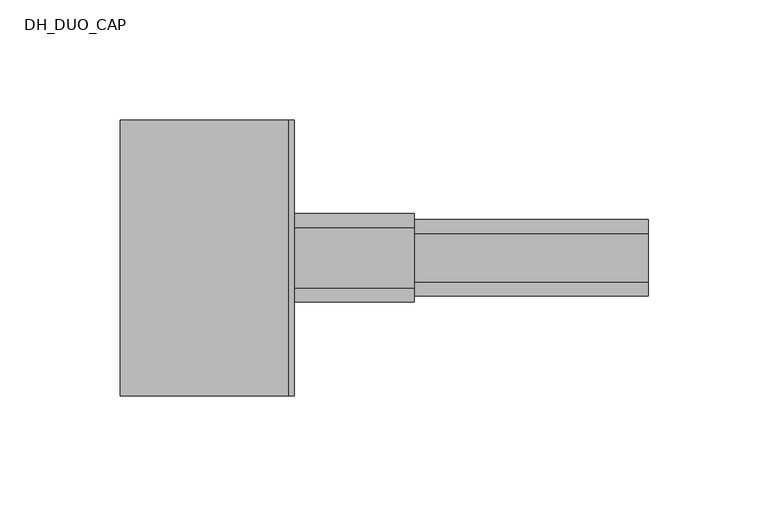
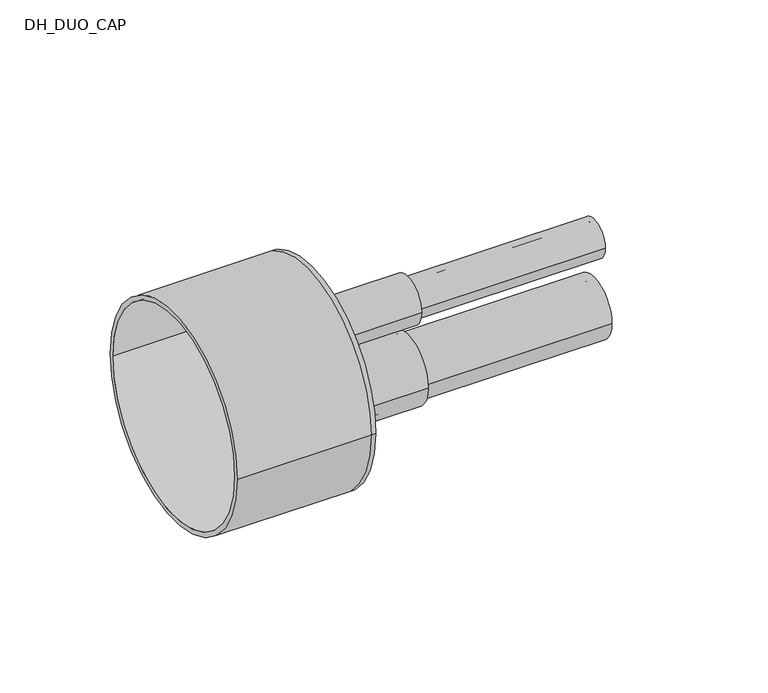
"""IFC4 building model written with IfcOpenShell, lengths in millimetres: pipe fitting geometry, DH_DUO_CAP : INSULPEX DUO 7.4 DW - Rubber Cap."""

from ifc_helpers import new_model, si_unit, point, frame, frame_2d, origin, place, context, project, spatial, polyline, circle_curve, trimmed, segment, composite_curve, outline, extrude, source, transform, mapped, element, save
from ifc_brep_helpers import plane_surface, cylinder_surface, revolved_surface, advanced_brep


def dh_duo_cap_0ae49115(model_context):
    return source(origin(), model_context, "Body", "SolidModel", [
        extrude(outline(composite_curve([segment(trimmed(circle_curve(frame_2d((0.0, -16.0)), 16.0), [point((-16.0, -16.0))], [point((16.0, -16.0))], False, "CARTESIAN"), True, "CONTINUOUS"), segment(trimmed(circle_curve(frame_2d((0.0, -16.0)), 16.0), [point((16.0, -16.0))], [point((-16.0, -16.0))], False, "CARTESIAN"), True, "CONTINUOUS")], self_intersect=False), holes=[composite_curve([segment(trimmed(circle_curve(frame_2d((0.0, -16.0)), 11.6), [point((-11.6, -16.0))], [point((11.6, -16.0))], True, "CARTESIAN"), True, "CONTINUOUS"), segment(trimmed(circle_curve(frame_2d((0.0, -16.0)), 11.6), [point((11.6, -16.0))], [point((-11.6, -16.0))], True, "CARTESIAN"), True, "CONTINUOUS")], self_intersect=False)]), frame((0.0, 0.0, 0.0), z_axis=(1.0, 0.0, 0.0), x_axis=(0.0, 1.0, 0.0)), (0.0, 0.0, 1.0), 150.0),
        extrude(outline(composite_curve([segment(trimmed(circle_curve(frame_2d((0.0, 22.0)), 10.0), [point((-10.0, 22.0))], [point((10.0, 22.0))], False, "CARTESIAN"), True, "CONTINUOUS"), segment(trimmed(circle_curve(frame_2d((0.0, 22.0)), 10.0), [point((10.0, 22.0))], [point((-10.0, 22.0))], False, "CARTESIAN"), True, "CONTINUOUS")], self_intersect=False), holes=[composite_curve([segment(trimmed(circle_curve(frame_2d((0.0, 22.0)), 7.2), [point((-7.2, 22.0))], [point((7.2, 22.0))], True, "CARTESIAN"), True, "CONTINUOUS"), segment(trimmed(circle_curve(frame_2d((0.0, 22.0)), 7.2), [point((7.2, 22.0))], [point((-7.2, 22.0))], True, "CARTESIAN"), True, "CONTINUOUS")], self_intersect=False)]), frame((0.0, 0.0, 0.0), z_axis=(1.0, 0.0, 0.0), x_axis=(0.0, 1.0, 0.0)), (0.0, 0.0, 1.0), 150.0),
        advanced_brep(
        [(-70.0, -57.5, 0.0), (-70.0, 57.5, 0.0), (-70.0, -55.0, 0.0), (-70.0, 55.0, 0.0), (0.0, -55.0, 0.0), (0.0, 55.0, 0.0), (0.0, -57.5, 0.0), (0.0, 57.5, 0.0), (0.0, 10.0, 22.0), (0.0, -10.0, 22.0), (0.0, 16.0, -16.0), (0.0, -16.0, -16.0), (2.5, -57.5, 0.0), (2.5, 57.5, 0.0), (2.5, -10.0, 22.0), (2.5, 10.0, 22.0), (2.5, -16.0, -16.0), (2.5, 16.0, -16.0)],
        [
            (0, 1, circle_curve(frame((-70.0, 0.0, 0.0), z_axis=(-1.0, 0.0, 0.0), x_axis=(0.0, 1.0, 0.0)), 57.5)),
            (1, 0, circle_curve(frame((-70.0, 0.0, 0.0), z_axis=(-1.0, 0.0, 0.0), x_axis=(0.0, 1.0, 0.0)), 57.5)),
            (2, 3, circle_curve(frame((-70.0, 0.0, 0.0), z_axis=(1.0, 0.0, 0.0), x_axis=(0.0, 1.0, 0.0)), 55.0)),
            (3, 2, circle_curve(frame((-70.0, 0.0, 0.0), z_axis=(1.0, 0.0, 0.0), x_axis=(0.0, 1.0, 0.0)), 55.0)),
            (2, 4),
            (4, 5, circle_curve(frame((0.0, 0.0, 0.0), z_axis=(1.0, 0.0, 0.0), x_axis=(0.0, 1.0, 0.0)), 55.0)),
            (5, 3),
            (5, 4, circle_curve(frame((0.0, 0.0, 0.0), z_axis=(1.0, 0.0, 0.0), x_axis=(0.0, 1.0, 0.0)), 55.0)),
            (0, 6),
            (6, 7, circle_curve(frame((0.0, 0.0, 0.0), z_axis=(-1.0, 0.0, 0.0), x_axis=(0.0, 1.0, 0.0)), 57.5)),
            (7, 1),
            (7, 6, circle_curve(frame((0.0, 0.0, 0.0), z_axis=(-1.0, 0.0, 0.0), x_axis=(0.0, 1.0, 0.0)), 57.5)),
            (8, 9, circle_curve(frame((0.0, 0.0, 22.0), z_axis=(1.0, 0.0, 0.0), x_axis=(0.0, 1.0, 0.0)), 10.0)),
            (9, 8, circle_curve(frame((0.0, 0.0, 22.0), z_axis=(1.0, 0.0, 0.0), x_axis=(0.0, 1.0, 0.0)), 10.0)),
            (10, 11, circle_curve(frame((0.0, 0.0, -16.0), z_axis=(1.0, 0.0, 0.0), x_axis=(0.0, 1.0, 0.0)), 16.0)),
            (11, 10, circle_curve(frame((0.0, 0.0, -16.0), z_axis=(1.0, 0.0, 0.0), x_axis=(0.0, 1.0, 0.0)), 16.0)),
            (12, 13, circle_curve(frame((2.5, 0.0, 0.0), z_axis=(1.0, 0.0, 0.0), x_axis=(0.0, 1.0, 0.0)), 57.5)),
            (13, 12, circle_curve(frame((2.5, 0.0, 0.0), z_axis=(1.0, 0.0, 0.0), x_axis=(0.0, 1.0, 0.0)), 57.5)),
            (14, 15, circle_curve(frame((2.5, 0.0, 22.0), z_axis=(-1.0, 0.0, 0.0), x_axis=(0.0, 1.0, 0.0)), 10.0)),
            (15, 14, circle_curve(frame((2.5, 0.0, 22.0), z_axis=(-1.0, 0.0, 0.0), x_axis=(0.0, 1.0, 0.0)), 10.0)),
            (16, 17, circle_curve(frame((2.5, 0.0, -16.0), z_axis=(-1.0, 0.0, 0.0), x_axis=(0.0, 1.0, 0.0)), 16.0)),
            (17, 16, circle_curve(frame((2.5, 0.0, -16.0), z_axis=(-1.0, 0.0, 0.0), x_axis=(0.0, 1.0, 0.0)), 16.0)),
            (13, 7),
            (6, 12),
            (8, 15),
            (14, 9),
            (10, 17),
            (16, 11),
        ],
        [
            plane_surface(frame((-70.0, 0.0, 0.0), z_axis=(-1.0, 0.0, 0.0), x_axis=(0.0, 0.0, 1.0))),
            revolved_surface(polyline([(0.0, 55.0, 0.0), (-70.0, 55.0, 0.0)]), (-70.0, 0.0, 0.0), (1.0, 0.0, 0.0)),
            cylinder_surface(frame((-70.0, 0.0, 0.0), z_axis=(-1.0, 0.0, 0.0), x_axis=(0.0, 1.0, 0.0)), 57.5),
            plane_surface(frame((0.0, 0.0, 0.0), z_axis=(-1.0, 0.0, 0.0), x_axis=(0.0, 0.0, 1.0))),
            plane_surface(frame((2.5, 0.0, 0.0), z_axis=(1.0, 0.0, 0.0), x_axis=(0.0, 0.0, 1.0))),
            cylinder_surface(frame((0.0, 0.0, 0.0), z_axis=(-1.0, 0.0, 0.0), x_axis=(0.0, 1.0, 0.0)), 57.5),
            revolved_surface(polyline([(0.0, 10.0, 22.0), (2.5, 10.0, 22.0)]), (0.0, 0.0, 22.0), (-1.0, 0.0, 0.0)),
            revolved_surface(polyline([(0.0, 16.0, -16.0), (2.5, 16.0, -16.0)]), (0.0, 0.0, -16.0), (-1.0, 0.0, 0.0)),
        ],
        [
            (0, [[1, 2], [3, 4]]),
            (1, [[-3, 5, 6, 7]]),
            (1, [[-4, -7, 8, -5]]),
            (2, [[-1, 9, 10, 11]]),
            (2, [[-2, -11, 12, -9]]),
            (3, [[-6, -8], [13, 14], [15, 16]]),
            (4, [[17, 18], [19, 20], [21, 22]]),
            (5, [[-18, 23, -10, 24]]),
            (5, [[-17, -24, -12, -23]]),
            (6, [[25, -19, 26, -13]]),
            (6, [[-25, -14, -26, -20]]),
            (7, [[27, -21, 28, -15]]),
            (7, [[-27, -16, -28, -22]]),
        ],
    ),
        extrude(outline(composite_curve([segment(trimmed(circle_curve(frame_2d((0.0, -16.0)), 18.5), [point((-18.5, -16.0))], [point((18.5, -16.0))], False, "CARTESIAN"), True, "CONTINUOUS"), segment(trimmed(circle_curve(frame_2d((0.0, -16.0)), 18.5), [point((18.5, -16.0))], [point((-18.5, -16.0))], False, "CARTESIAN"), True, "CONTINUOUS")], self_intersect=False), holes=[composite_curve([segment(trimmed(circle_curve(frame_2d((0.0, -16.0)), 16.0), [point((-16.0, -16.0))], [point((16.0, -16.0))], True, "CARTESIAN"), True, "CONTINUOUS"), segment(trimmed(circle_curve(frame_2d((0.0, -16.0)), 16.0), [point((16.0, -16.0))], [point((-16.0, -16.0))], True, "CARTESIAN"), True, "CONTINUOUS")], self_intersect=False)]), frame((2.5, 0.0, 0.0), z_axis=(1.0, 0.0, 0.0), x_axis=(0.0, 1.0, 0.0)), (0.0, 0.0, 1.0), 50.0),
        extrude(outline(composite_curve([segment(trimmed(circle_curve(frame_2d((0.0, 22.0)), 12.5), [point((-12.5, 22.0))], [point((12.5, 22.0))], False, "CARTESIAN"), True, "CONTINUOUS"), segment(trimmed(circle_curve(frame_2d((0.0, 22.0)), 12.5), [point((12.5, 22.0))], [point((-12.5, 22.0))], False, "CARTESIAN"), True, "CONTINUOUS")], self_intersect=False), holes=[composite_curve([segment(trimmed(circle_curve(frame_2d((0.0, 22.0)), 10.0), [point((-10.0, 22.0))], [point((10.0, 22.0))], True, "CARTESIAN"), True, "CONTINUOUS"), segment(trimmed(circle_curve(frame_2d((0.0, 22.0)), 10.0), [point((10.0, 22.0))], [point((-10.0, 22.0))], True, "CARTESIAN"), True, "CONTINUOUS")], self_intersect=False)]), frame((2.5, 0.0, 0.0), z_axis=(1.0, 0.0, 0.0), x_axis=(0.0, 1.0, 0.0)), (0.0, 0.0, 1.0), 50.0),
    ])


if __name__ == "__main__":
    model = new_model("IFC4")
    model_context = context("Model", 3, world=origin())
    ifc_project = project(units=[si_unit("LENGTHUNIT", "METRE", prefix="MILLI")], contexts=[model_context])
    site = spatial("IfcSite", under=ifc_project)
    building = spatial("IfcBuilding", under=site)
    placement = place(None, origin())
    dh_duo_cap_shape = dh_duo_cap_0ae49115(model_context)
    element("IfcPipeFitting", 1, ObjectType="DH_DUO_CAP : INSULPEX DUO 7.4 DW - Rubber Cap", at=placement, inside=building, context=model_context, shape_type="MappedRepresentation", body=[
        mapped(dh_duo_cap_shape, transform((0.0, 0.0, 0.0), x_axis=(1.0, 0.0, 0.0), y_axis=(0.0, 1.0, 0.0), z_axis=(0.0, 0.0, 1.0))),
    ])
    save(model, "model.ifc")
